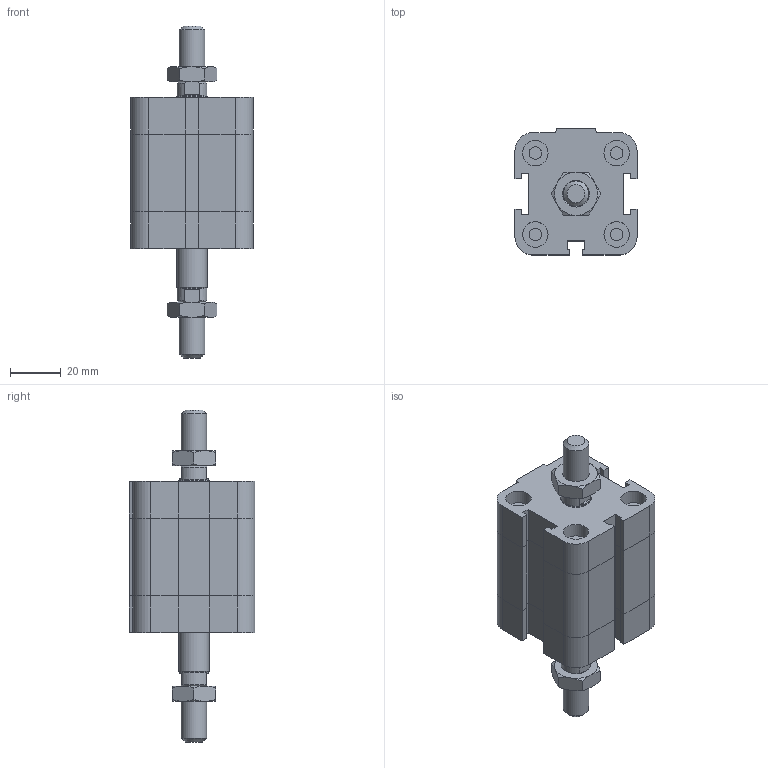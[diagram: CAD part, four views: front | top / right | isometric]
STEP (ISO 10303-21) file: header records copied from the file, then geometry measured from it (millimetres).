
FILE_DESCRIPTION((''),'2;1');
FILE_NAME('I:\Area Tecnica\Disegni\VARIE-3D\Componenti\EUROPE\15##_###_####_04_#\1581_32_0015_04_1.iam.stp','2009-04-20T14:50:52',(''),(''),'Autodesk Inventor 2009','Autodesk Inventor 2009','');
FILE_SCHEMA(('AUTOMOTIVE_DESIGN { 1 0 10303 214 1 1 1 1 }'));
Length unit declared in the file: millimetre
Products named in the file (4): 1581_32_0015_04_1; 1581_32_0015_03_1_C; 1561_32_0015_04_1_S; DBFM10
Assembly tree (4 placements, depth 2):
  1581_32_0015_04_1
    1581_32_0015_03_1_C
    1561_32_0015_04_1_S
    DBFM10  x2
Bounding box: 48 x 49.5 x 130.5 mm (x, y, z)
Volume: 126871.5 mm3; surface area: 30000.6 mm2
Topology: 4 solids, 4 shells, 222 faces, 483 edges, 289 vertices
Faces by surface type: plane 129, cone 35, bspline 33, cylinder 25
Full cylindrical faces by diameter (mm): 4.917 x4, 8.8 x1, 10 x5, 11.7 x2, 12 x1
Entity records: 5450 total; most frequent: CARTESIAN_POINT 1222, DIRECTION 802, ORIENTED_EDGE 772, EDGE_CURVE 386, AXIS2_PLACEMENT_3D 272, EDGE_LOOP 258, VECTOR 258, LINE 258
